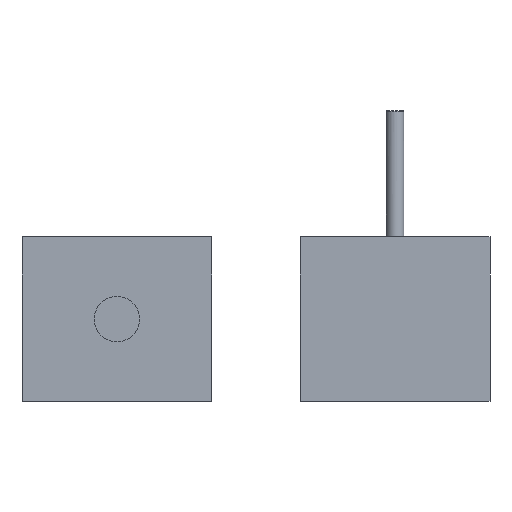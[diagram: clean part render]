
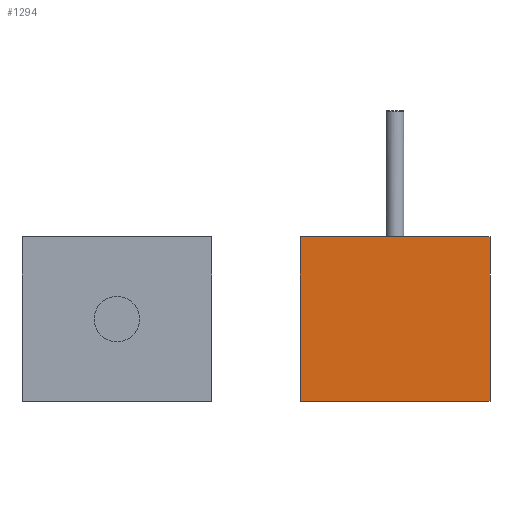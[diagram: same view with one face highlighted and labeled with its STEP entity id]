
A CAD part, front view. The second image highlights one B-rep face of the part: STEP entity #1294.
In plain terms, the highlighted planar face has unit normal (0, -1, 0).
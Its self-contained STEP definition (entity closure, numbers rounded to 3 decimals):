
#854=DIRECTION('',(0.,0.,1.));
#855=VECTOR('',#854,65.);
#856=CARTESIAN_POINT('',(-37.5,-12.,-32.5));
#857=LINE('',#856,#855);
#858=DIRECTION('',(1.,0.,0.));
#859=VECTOR('',#858,75.);
#860=CARTESIAN_POINT('',(-37.5,-12.,32.5));
#861=LINE('',#860,#859);
#862=DIRECTION('',(0.,0.,-1.));
#863=VECTOR('',#862,65.);
#864=CARTESIAN_POINT('',(37.5,-12.,32.5));
#865=LINE('',#864,#863);
#866=DIRECTION('',(-1.,0.,0.));
#867=VECTOR('',#866,75.);
#868=CARTESIAN_POINT('',(37.5,-12.,-32.5));
#869=LINE('',#868,#867);
#971=CARTESIAN_POINT('',(-37.5,-12.,-32.5));
#972=CARTESIAN_POINT('',(-37.5,-12.,32.5));
#973=VERTEX_POINT('',#971);
#974=VERTEX_POINT('',#972);
#975=CARTESIAN_POINT('',(37.5,-12.,32.5));
#976=VERTEX_POINT('',#975);
#977=CARTESIAN_POINT('',(37.5,-12.,-32.5));
#978=VERTEX_POINT('',#977);
#1280=CARTESIAN_POINT('',(0.,-12.,0.));
#1281=DIRECTION('',(0.,1.,0.));
#1282=DIRECTION('',(1.,0.,0.));
#1283=AXIS2_PLACEMENT_3D('',#1280,#1281,#1282);
#1284=PLANE('',#1283);
#1285=ORIENTED_EDGE('',*,*,#1270,.T.);
#1287=ORIENTED_EDGE('',*,*,#1286,.T.);
#1289=ORIENTED_EDGE('',*,*,#1288,.T.);
#1291=ORIENTED_EDGE('',*,*,#1290,.T.);
#1292=EDGE_LOOP('',(#1285,#1287,#1289,#1291));
#1293=FACE_OUTER_BOUND('',#1292,.F.);
#1294=ADVANCED_FACE('',(#1293),#1284,.F.);
#1270=EDGE_CURVE('',#973,#974,#857,.T.);
#1286=EDGE_CURVE('',#974,#976,#861,.T.);
#1288=EDGE_CURVE('',#976,#978,#865,.T.);
#1290=EDGE_CURVE('',#978,#973,#869,.T.);
